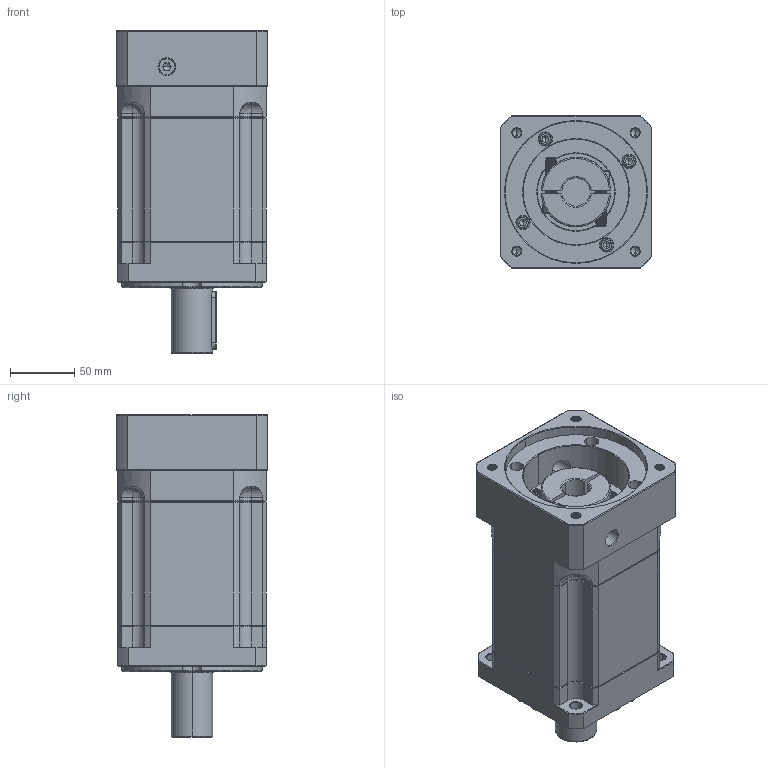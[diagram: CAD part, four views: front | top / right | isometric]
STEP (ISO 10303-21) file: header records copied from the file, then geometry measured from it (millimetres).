
FILE_DESCRIPTION (( 'STEP AP214' ), '1' );
FILE_NAME ('ZB115A-D32-L3-P2-22-110-130-M8.step', '2023-08-26T06:32:23', ( '' ), ( '' ), 'SwSTEP 2.0', 'SolidWorks 2016', '' );
FILE_SCHEMA (( 'AUTOMOTIVE_DESIGN' ));
Length unit declared in the file: millimetre
Products named in the file (1): ZB115A-D32-L3-P2-22-110-130-M8
Bounding box: 118 x 118 x 250.5 mm (x, y, z)
Volume: 2219866.8 mm3; surface area: 195078.8 mm2
Topology: 6 solids, 6 shells, 2397 faces, 6287 edges, 3990 vertices
Faces by surface type: plane 1144, cylinder 441, bspline 423, cone 369, torus 20
Entity records: 129462 total; most frequent: CARTESIAN_POINT 47646, ORIENTED_EDGE 12506, DIRECTION 9907, EDGE_CURVE 6253, VECTOR 3999, LINE 3999, VERTEX_POINT 3990, AXIS2_PLACEMENT_3D 2954
